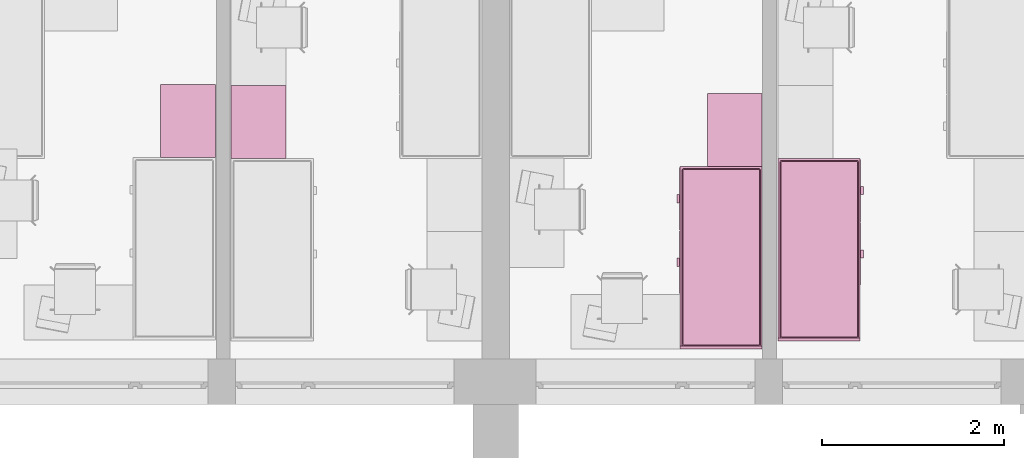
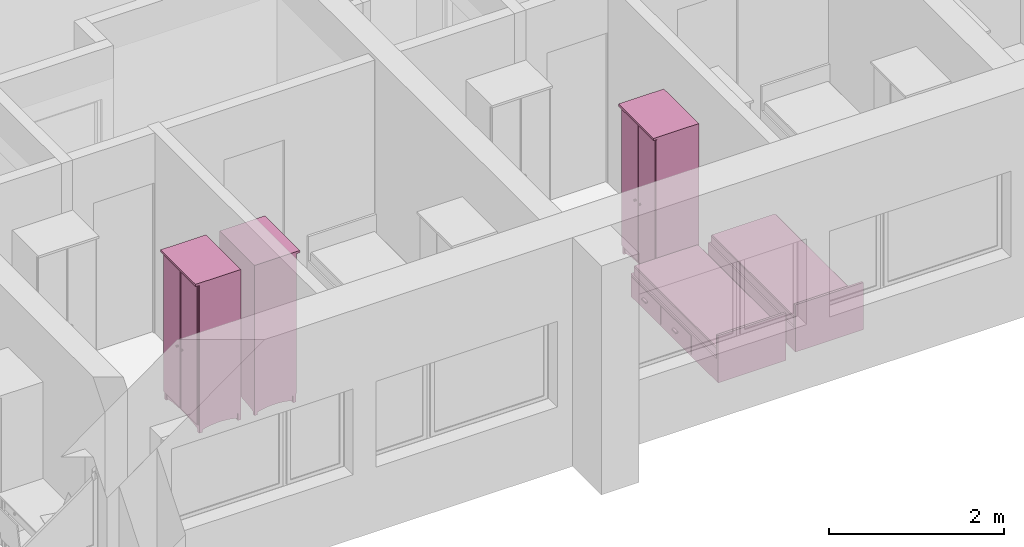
# One storey, part 123 of 165: 5 furnishings.
"""IFC2X3 building model written with IfcOpenShell, lengths in millimetres."""

from ifc_helpers import new_model, entity, si_unit, converted_unit, money_unit, direction, frame, origin_with_axes, place, context, subcontext, project, spatial, faceted_brep, source, transform, mapped, material, material_list, type_object, element, save


model = new_model("IFC2X3")

# Units and contexts
model_context = context("Model", 3, precision=1e-05, world=origin_with_axes(), true_north=direction((0.0, 1.0)))
body_context = subcontext(model_context, "Body", "Model", "MODEL_VIEW")
ifc_project = project(units=[si_unit("LENGTHUNIT", "METRE", prefix="MILLI"), si_unit("AREAUNIT", "SQUARE_METRE"), si_unit("VOLUMEUNIT", "CUBIC_METRE"), converted_unit("PLANEANGLEUNIT", "DEGREE", entity("IfcPlaneAngleMeasure", 0.0174532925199), si_unit("PLANEANGLEUNIT", "RADIAN"), dimensions=[0, 0, 0, 0, 0, 0, 0]), si_unit("SOLIDANGLEUNIT", "STERADIAN"), money_unit("USD"), converted_unit("TIMEUNIT", "Year", entity("IfcTimeMeasure", 31556926.0), si_unit("TIMEUNIT", "SECOND"), dimensions=[0, 0, 0, 0, 0, 0, 0]), si_unit("MASSUNIT", "GRAM"), si_unit("THERMODYNAMICTEMPERATUREUNIT", "DEGREE_CELSIUS"), si_unit("LUMINOUSINTENSITYUNIT", "LUMEN")], contexts=[model_context])

# Site, building, storey
site_placement = place(None, origin_with_axes())
site = spatial("IfcSite", under=ifc_project, at=site_placement, Name="Site", CompositionType="ELEMENT")
building_placement = place(site_placement, origin_with_axes())
building = spatial("IfcBuilding", under=site, at=building_placement, Name="Building", CompositionType="ELEMENT")
storey_placement = place(building_placement, frame((0.0, 0.0, 6300.0), z_axis=(0.0, 0.0, 1.0), x_axis=(1.0, 0.0, 0.0)))
storey = spatial("IfcBuildingStorey", under=building, at=storey_placement, Name="4KORRUS", CompositionType="ELEMENT", Elevation=6300.0)

# Furnishings
ifc_material = material(Name="Background")
ifc_material_list = material_list([ifc_material])
furnishing_element_type_1 = type_object("IfcFurnishingElementType", Name="Bed 19")
shared_shape_1 = source(origin_with_axes(), body_context, "Body", "Brep", [
    faceted_brep([(900.0, 1970.0, 0.0), (0.0, 1970.0, 0.0), (0.0, 2000.0, 0.0), (900.0, 2000.0, 0.0), (900.0, 1970.0, 660.0), (0.0, 1970.0, 660.0), (0.0, 2000.0, 660.0), (900.0, 2000.0, 660.0)], [[[0, 1, 2, 3]], [[1, 0, 4, 5]], [[2, 1, 5, 6]], [[3, 2, 6, 7]], [[0, 3, 7, 4]], [[5, 4, 7, 6]]]),
    faceted_brep([(900.0, 0.0, 0.0), (0.0, 0.0, 0.0), (0.0, 1970.0, 0.0), (900.0, 1970.0, 0.0), (900.0, 0.0, 320.0), (0.0, 0.0, 320.0), (0.0, 1970.0, 320.0), (900.0, 1970.0, 320.0)], [[[0, 1, 2, 3]], [[1, 0, 4, 5]], [[2, 1, 5, 6]], [[3, 2, 6, 7]], [[0, 3, 7, 4]], [[5, 4, 7, 6]]]),
    faceted_brep([(905.0, 10.0, 30.0), (900.0, 10.0, 30.0), (900.0, 695.0, 30.0), (905.0, 695.0, 30.0), (905.0, 10.0, 290.0), (900.0, 10.0, 290.0), (900.0, 695.0, 290.0), (905.0, 695.0, 290.0)], [[[0, 1, 2, 3]], [[1, 0, 4, 5]], [[2, 1, 5, 6]], [[3, 2, 6, 7]], [[0, 3, 7, 4]], [[5, 4, 7, 6]]]),
    faceted_brep([(935.0, 307.5, 150.0), (905.0, 307.5, 150.0), (905.0, 397.5, 150.0), (935.0, 397.5, 150.0), (935.0, 307.5, 170.0), (905.0, 307.5, 170.0), (905.0, 397.5, 170.0), (935.0, 397.5, 170.0)], [[[0, 1, 2, 3]], [[1, 0, 4, 5]], [[2, 1, 5, 6]], [[3, 2, 6, 7]], [[0, 3, 7, 4]], [[5, 4, 7, 6]]]),
    faceted_brep([(905.0, 705.0, 30.0), (900.0, 705.0, 30.0), (900.0, 1390.0, 30.0), (905.0, 1390.0, 30.0), (905.0, 705.0, 290.0), (900.0, 705.0, 290.0), (900.0, 1390.0, 290.0), (905.0, 1390.0, 290.0)], [[[0, 1, 2, 3]], [[1, 0, 4, 5]], [[2, 1, 5, 6]], [[3, 2, 6, 7]], [[0, 3, 7, 4]], [[5, 4, 7, 6]]]),
    faceted_brep([(935.0, 1002.5, 150.0), (905.0, 1002.5, 150.0), (905.0, 1092.5, 150.0), (935.0, 1092.5, 150.0), (935.0, 1002.5, 170.0), (905.0, 1002.5, 170.0), (905.0, 1092.5, 170.0), (935.0, 1092.5, 170.0)], [[[0, 1, 2, 3]], [[1, 0, 4, 5]], [[2, 1, 5, 6]], [[3, 2, 6, 7]], [[0, 3, 7, 4]], [[5, 4, 7, 6]]]),
    faceted_brep([(20.0, 40.0, 350.0), (20.0, 1950.0, 350.0), (21.522, 1957.654, 350.0), (25.858, 1964.142, 350.0), (32.346, 1968.478, 350.0), (40.0, 1970.0, 350.0), (860.0, 1970.0, 350.0), (867.654, 1968.478, 350.0), (874.142, 1964.142, 350.0), (878.478, 1957.654, 350.0), (880.0, 1950.0, 350.0), (880.0, 40.0, 350.0), (878.478, 32.346, 350.0), (874.142, 25.858, 350.0), (867.654, 21.522, 350.0), (860.0, 20.0, 350.0), (40.0, 20.0, 350.0), (32.346, 21.522, 350.0), (25.858, 25.858, 350.0), (21.522, 32.346, 350.0), (20.0, 40.0, 420.0), (20.0, 1950.0, 420.0), (21.522, 1957.654, 420.0), (25.858, 1964.142, 420.0), (32.346, 1968.478, 420.0), (40.0, 1970.0, 420.0), (860.0, 1970.0, 420.0), (867.654, 1968.478, 420.0), (874.142, 1964.142, 420.0), (878.478, 1957.654, 420.0), (880.0, 1950.0, 420.0), (880.0, 40.0, 420.0), (878.478, 32.346, 420.0), (874.142, 25.858, 420.0), (867.654, 21.522, 420.0), (860.0, 20.0, 420.0), (40.0, 20.0, 420.0), (32.346, 21.522, 420.0), (25.858, 25.858, 420.0), (21.522, 32.346, 420.0), (21.522, 40.15, 427.654), (21.522, 1949.85, 427.654), (22.956, 1957.06, 427.654), (26.955, 1963.045, 427.654), (32.94, 1967.044, 427.654), (40.15, 1968.478, 427.654), (859.85, 1968.478, 427.654), (867.06, 1967.044, 427.654), (873.045, 1963.045, 427.654), (877.044, 1957.06, 427.654), (878.478, 1949.85, 427.654), (878.478, 40.15, 427.654), (877.044, 32.94, 427.654), (873.045, 26.955, 427.654), (867.06, 22.956, 427.654), (859.85, 21.522, 427.654), (40.15, 21.522, 427.654), (32.94, 22.956, 427.654), (26.955, 26.955, 427.654), (22.956, 32.94, 427.654), (32.346, 41.216, 438.478), (32.346, 1948.784, 438.478), (33.152, 1952.836, 438.478), (34.759, 1955.241, 438.478), (37.164, 1956.848, 438.478), (41.216, 1957.654, 438.478), (858.784, 1957.654, 438.478), (862.836, 1956.848, 438.478), (865.241, 1955.241, 438.478), (866.848, 1952.836, 438.478), (867.654, 1948.784, 438.478), (867.654, 41.216, 438.478), (866.848, 37.164, 438.478), (865.241, 34.759, 438.478), (862.836, 33.152, 438.478), (858.784, 32.346, 438.478), (41.216, 32.346, 438.478), (37.164, 33.152, 438.478), (34.759, 34.759, 438.478), (33.152, 37.164, 438.478), (40.0, 41.97, 440.0), (40.0, 1948.03, 440.0), (40.327, 1949.673, 440.0), (40.0, 1950.0, 439.924), (41.97, 1950.0, 440.0), (858.03, 1950.0, 440.0), (859.673, 1949.673, 440.0), (860.0, 1950.0, 439.924), (860.0, 1948.03, 440.0), (860.0, 41.97, 440.0), (859.673, 40.327, 440.0), (860.0, 40.0, 439.924), (858.03, 40.0, 440.0), (41.97, 40.0, 440.0), (40.327, 40.327, 440.0), (40.0, 40.0, 439.924)], [[[0, 1, 2, 3, 4, 5, 6, 7, 8, 9, 10, 11, 12, 13, 14, 15, 16, 17, 18, 19]], [[1, 0, 20, 21]], [[2, 1, 21, 22]], [[3, 2, 22, 23]], [[4, 3, 23, 24]], [[5, 4, 24, 25]], [[6, 5, 25, 26]], [[7, 6, 26, 27]], [[8, 7, 27, 28]], [[9, 8, 28, 29]], [[10, 9, 29, 30]], [[11, 10, 30, 31]], [[12, 11, 31, 32]], [[13, 12, 32, 33]], [[14, 13, 33, 34]], [[15, 14, 34, 35]], [[16, 15, 35, 36]], [[17, 16, 36, 37]], [[18, 17, 37, 38]], [[19, 18, 38, 39]], [[0, 19, 39, 20]], [[21, 20, 40, 41]], [[22, 21, 41, 42]], [[23, 22, 42, 43]], [[24, 23, 43, 44]], [[25, 24, 44, 45]], [[26, 25, 45, 46]], [[27, 26, 46, 47]], [[28, 27, 47, 48]], [[29, 28, 48, 49]], [[30, 29, 49, 50]], [[31, 30, 50, 51]], [[32, 31, 51, 52]], [[33, 32, 52, 53]], [[34, 33, 53, 54]], [[35, 34, 54, 55]], [[36, 35, 55, 56]], [[37, 36, 56, 57]], [[38, 37, 57, 58]], [[39, 38, 58, 59]], [[20, 39, 59, 40]], [[41, 40, 60, 61]], [[42, 41, 61, 62]], [[43, 42, 62, 63]], [[44, 43, 63, 64]], [[45, 44, 64, 65]], [[46, 45, 65, 66]], [[47, 46, 66, 67]], [[48, 47, 67, 68]], [[49, 48, 68, 69]], [[50, 49, 69, 70]], [[51, 50, 70, 71]], [[52, 51, 71, 72]], [[53, 52, 72, 73]], [[54, 53, 73, 74]], [[55, 54, 74, 75]], [[56, 55, 75, 76]], [[57, 56, 76, 77]], [[58, 57, 77, 78]], [[59, 58, 78, 79]], [[40, 59, 79, 60]], [[61, 60, 80, 81]], [[62, 61, 81, 82, 83]], [[63, 62, 83]], [[64, 63, 83]], [[65, 64, 83, 82, 84]], [[66, 65, 84, 85]], [[67, 66, 85, 86, 87]], [[68, 67, 87]], [[69, 68, 87]], [[70, 69, 87, 86, 88]], [[71, 70, 88, 89]], [[72, 71, 89, 90, 91]], [[73, 72, 91]], [[74, 73, 91]], [[75, 74, 91, 90, 92]], [[76, 75, 92, 93]], [[77, 76, 93, 94, 95]], [[78, 77, 95]], [[79, 78, 95]], [[60, 79, 95, 94, 80]], [[81, 80, 94, 93, 92, 90, 89, 88, 86, 85, 84, 82]]]),
    faceted_brep([(20.0, 40.0, 350.0), (21.522, 32.346, 350.0), (25.858, 25.858, 350.0), (32.346, 21.522, 350.0), (40.0, 20.0, 350.0), (860.0, 20.0, 350.0), (867.654, 21.522, 350.0), (874.142, 25.858, 350.0), (878.478, 32.346, 350.0), (880.0, 40.0, 350.0), (880.0, 1950.0, 350.0), (878.478, 1957.654, 350.0), (874.142, 1964.142, 350.0), (867.654, 1968.478, 350.0), (860.0, 1970.0, 350.0), (40.0, 1970.0, 350.0), (32.346, 1968.478, 350.0), (25.858, 1964.142, 350.0), (21.522, 1957.654, 350.0), (20.0, 1950.0, 350.0), (20.0, 40.0, 320.0), (21.522, 32.346, 320.0), (25.858, 25.858, 320.0), (32.346, 21.522, 320.0), (40.0, 20.0, 320.0), (860.0, 20.0, 320.0), (867.654, 21.522, 320.0), (874.142, 25.858, 320.0), (878.478, 32.346, 320.0), (880.0, 40.0, 320.0), (880.0, 1950.0, 320.0), (878.478, 1957.654, 320.0), (874.142, 1964.142, 320.0), (867.654, 1968.478, 320.0), (860.0, 1970.0, 320.0), (40.0, 1970.0, 320.0), (32.346, 1968.478, 320.0), (25.858, 1964.142, 320.0), (21.522, 1957.654, 320.0), (20.0, 1950.0, 320.0)], [[[0, 1, 2, 3, 4, 5, 6, 7, 8, 9, 10, 11, 12, 13, 14, 15, 16, 17, 18, 19]], [[0, 20, 21, 1]], [[1, 21, 22, 2]], [[2, 22, 23, 3]], [[3, 23, 24, 4]], [[4, 24, 25, 5]], [[5, 25, 26, 6]], [[6, 26, 27, 7]], [[7, 27, 28, 8]], [[8, 28, 29, 9]], [[9, 29, 30, 10]], [[10, 30, 31, 11]], [[11, 31, 32, 12]], [[12, 32, 33, 13]], [[13, 33, 34, 14]], [[14, 34, 35, 15]], [[15, 35, 36, 16]], [[16, 36, 37, 17]], [[17, 37, 38, 18]], [[18, 38, 39, 19]], [[19, 39, 20, 0]], [[20, 39, 38, 37, 36, 35, 34, 33, 32, 31, 30, 29, 28, 27, 26, 25, 24, 23, 22, 21]]]),
])
furnishing_1_placement = place(storey_placement, frame((8784.70329669, -17529.2398994, 0.0), z_axis=(0.0, 0.0, 1.0), x_axis=(-1.0, 0.0, 0.0)))
element("IfcFurnishingElement", 1, at=furnishing_1_placement, inside=storey, type_object=furnishing_element_type_1, material=ifc_material_list, Name="FU - 013", context=body_context, shape_type="MappedRepresentation", body=[
    mapped(shared_shape_1, transform((0.0, 0.0, 0.0))),
])
furnishing_element_type_2 = type_object("IfcFurnishingElementType", Name="Cupboard 19")
shared_shape_2 = source(origin_with_axes(), body_context, "Body", "Brep", [
    faceted_brep([(-780.0, 600.0, 120.0), (-780.0, 580.0, 120.0), (-780.0, 580.0, 2050.0), (-780.0, 600.0, 2050.0), (-20.0, 600.0, 120.0), (-20.0, 580.0, 120.0), (-20.0, 580.0, 2050.0), (-20.0, 600.0, 2050.0)], [[[0, 1, 2, 3]], [[0, 4, 5, 1]], [[1, 5, 6, 2]], [[3, 2, 6, 7]], [[4, 0, 3, 7]], [[5, 4, 7, 6]]]),
    faceted_brep([(0.0, 50.0, 100.0), (-20.0, 50.0, 100.0), (-20.0, 600.0, 100.0), (0.0, 600.0, 100.0), (0.0, 50.0, 2070.0), (-20.0, 50.0, 2070.0), (-20.0, 600.0, 2070.0), (0.0, 600.0, 2070.0)], [[[0, 1, 2, 3]], [[1, 0, 4, 5]], [[2, 1, 5, 6]], [[3, 2, 6, 7]], [[0, 3, 7, 4]], [[5, 4, 7, 6]]]),
    faceted_brep([(-780.0, 50.0, 100.0), (-800.0, 50.0, 100.0), (-800.0, 600.0, 100.0), (-780.0, 600.0, 100.0), (-780.0, 50.0, 2070.0), (-800.0, 50.0, 2070.0), (-800.0, 600.0, 2070.0), (-780.0, 600.0, 2070.0)], [[[0, 1, 2, 3]], [[1, 0, 4, 5]], [[2, 1, 5, 6]], [[3, 2, 6, 7]], [[0, 3, 7, 4]], [[5, 4, 7, 6]]]),
    faceted_brep([(-20.0, 50.0, 100.0), (-780.0, 50.0, 100.0), (-780.0, 600.0, 100.0), (-20.0, 600.0, 100.0), (-20.0, 50.0, 120.0), (-780.0, 50.0, 120.0), (-780.0, 600.0, 120.0), (-20.0, 600.0, 120.0)], [[[0, 1, 2, 3]], [[1, 0, 4, 5]], [[2, 1, 5, 6]], [[3, 2, 6, 7]], [[0, 3, 7, 4]], [[5, 4, 7, 6]]]),
    faceted_brep([(-20.0, 50.0, 2050.0), (-780.0, 50.0, 2050.0), (-780.0, 600.0, 2050.0), (-20.0, 600.0, 2050.0), (-20.0, 50.0, 2070.0), (-780.0, 50.0, 2070.0), (-780.0, 600.0, 2070.0), (-20.0, 600.0, 2070.0)], [[[0, 1, 2, 3]], [[1, 0, 4, 5]], [[2, 1, 5, 6]], [[3, 2, 6, 7]], [[0, 3, 7, 4]], [[5, 4, 7, 6]]]),
    faceted_brep([(0.0, 600.0, 2070.0), (0.0, 600.0, 2100.0), (0.0, 0.0, 2100.0), (0.0, 0.0, 2070.0), (-800.0, 600.0, 2070.0), (-800.0, 600.0, 2100.0), (-800.0, 0.0, 2100.0), (-800.0, 0.0, 2070.0)], [[[0, 1, 2, 3]], [[4, 5, 1, 0]], [[1, 5, 6, 2]], [[3, 2, 6, 7]], [[0, 3, 7, 4]], [[7, 6, 5, 4]]]),
    faceted_brep([(-760.0, 590.0, 25.0), (-640.962, 590.0, 45.8), (-640.962, 570.0, 45.8), (-760.0, 570.0, 25.0), (-760.0, 590.0, 100.0), (-40.0, 590.0, 100.0), (-40.0, 590.0, 25.0), (-159.038, 590.0, 45.8), (-279.23, 590.0, 58.32), (-400.0, 590.0, 62.5), (-520.77, 590.0, 58.32), (-520.77, 570.0, 58.32), (-400.0, 570.0, 62.5), (-279.23, 570.0, 58.32), (-159.038, 570.0, 45.8), (-40.0, 570.0, 25.0), (-40.0, 570.0, 100.0), (-760.0, 570.0, 100.0)], [[[0, 1, 2, 3]], [[0, 4, 5, 6, 7, 8, 9, 10, 1]], [[1, 10, 11, 2]], [[3, 2, 11, 12, 13, 14, 15, 16, 17]], [[4, 0, 3, 17]], [[5, 4, 17, 16]], [[6, 5, 16, 15]], [[7, 6, 15, 14]], [[8, 7, 14, 13]], [[9, 8, 13, 12]], [[10, 9, 12, 11]]]),
    faceted_brep([(-760.0, 80.0, 25.0), (-640.962, 80.0, 45.8), (-640.962, 60.0, 45.8), (-760.0, 60.0, 25.0), (-760.0, 80.0, 100.0), (-40.0, 80.0, 100.0), (-40.0, 80.0, 25.0), (-159.038, 80.0, 45.8), (-279.23, 80.0, 58.32), (-400.0, 80.0, 62.5), (-520.77, 80.0, 58.32), (-520.77, 60.0, 58.32), (-400.0, 60.0, 62.5), (-279.23, 60.0, 58.32), (-159.038, 60.0, 45.8), (-40.0, 60.0, 25.0), (-40.0, 60.0, 100.0), (-760.0, 60.0, 100.0)], [[[0, 1, 2, 3]], [[0, 4, 5, 6, 7, 8, 9, 10, 1]], [[1, 10, 11, 2]], [[3, 2, 11, 12, 13, 14, 15, 16, 17]], [[4, 0, 3, 17]], [[5, 4, 17, 16]], [[6, 5, 16, 15]], [[7, 6, 15, 14]], [[8, 7, 14, 13]], [[9, 8, 13, 12]], [[10, 9, 12, 11]]]),
    faceted_brep([(-790.0, 90.0, 25.0), (-790.0, 141.266, 38.072), (-770.0, 141.266, 38.072), (-770.0, 90.0, 25.0), (-790.0, 90.0, 100.0), (-790.0, 560.0, 100.0), (-790.0, 560.0, 25.0), (-790.0, 508.734, 38.072), (-790.0, 456.752, 47.92), (-790.0, 404.257, 54.508), (-790.0, 351.453, 57.808), (-790.0, 298.547, 57.808), (-790.0, 245.743, 54.508), (-790.0, 193.248, 47.92), (-770.0, 193.248, 47.92), (-770.0, 245.743, 54.508), (-770.0, 298.547, 57.808), (-770.0, 351.453, 57.808), (-770.0, 404.257, 54.508), (-770.0, 456.752, 47.92), (-770.0, 508.734, 38.072), (-770.0, 560.0, 25.0), (-770.0, 560.0, 100.0), (-770.0, 90.0, 100.0)], [[[0, 1, 2, 3]], [[0, 4, 5, 6, 7, 8, 9, 10, 11, 12, 13, 1]], [[1, 13, 14, 2]], [[3, 2, 14, 15, 16, 17, 18, 19, 20, 21, 22, 23]], [[4, 0, 3, 23]], [[5, 4, 23, 22]], [[6, 5, 22, 21]], [[7, 6, 21, 20]], [[8, 7, 20, 19]], [[9, 8, 19, 18]], [[10, 9, 18, 17]], [[11, 10, 17, 16]], [[12, 11, 16, 15]], [[13, 12, 15, 14]]]),
    faceted_brep([(-30.0, 90.0, 25.0), (-30.0, 141.266, 38.072), (-10.0, 141.266, 38.072), (-10.0, 90.0, 25.0), (-30.0, 90.0, 100.0), (-30.0, 560.0, 100.0), (-30.0, 560.0, 25.0), (-30.0, 508.734, 38.072), (-30.0, 456.752, 47.92), (-30.0, 404.257, 54.508), (-30.0, 351.453, 57.808), (-30.0, 298.547, 57.808), (-30.0, 245.743, 54.508), (-30.0, 193.248, 47.92), (-10.0, 193.248, 47.92), (-10.0, 245.743, 54.508), (-10.0, 298.547, 57.808), (-10.0, 351.453, 57.808), (-10.0, 404.257, 54.508), (-10.0, 456.752, 47.92), (-10.0, 508.734, 38.072), (-10.0, 560.0, 25.0), (-10.0, 560.0, 100.0), (-10.0, 90.0, 100.0)], [[[0, 1, 2, 3]], [[0, 4, 5, 6, 7, 8, 9, 10, 11, 12, 13, 1]], [[1, 13, 14, 2]], [[3, 2, 14, 15, 16, 17, 18, 19, 20, 21, 22, 23]], [[4, 0, 3, 23]], [[5, 4, 23, 22]], [[6, 5, 22, 21]], [[7, 6, 21, 20]], [[8, 7, 20, 19]], [[9, 8, 19, 18]], [[10, 9, 18, 17]], [[11, 10, 17, 16]], [[12, 11, 16, 15]], [[13, 12, 15, 14]]]),
    faceted_brep([(-760.0, 560.0, 0.0), (-760.0, 600.0, 0.0), (-760.0, 600.0, 100.0), (-760.0, 560.0, 100.0), (-800.0, 560.0, 0.0), (-800.0, 600.0, 0.0), (-800.0, 600.0, 100.0), (-800.0, 560.0, 100.0)], [[[0, 1, 2, 3]], [[0, 4, 5, 1]], [[1, 5, 6, 2]], [[3, 2, 6, 7]], [[4, 0, 3, 7]], [[5, 4, 7, 6]]]),
    faceted_brep([(0.0, 560.0, 0.0), (0.0, 600.0, 0.0), (0.0, 600.0, 100.0), (0.0, 560.0, 100.0), (-40.0, 560.0, 0.0), (-40.0, 600.0, 0.0), (-40.0, 600.0, 100.0), (-40.0, 560.0, 100.0)], [[[0, 1, 2, 3]], [[0, 4, 5, 1]], [[1, 5, 6, 2]], [[3, 2, 6, 7]], [[4, 0, 3, 7]], [[5, 4, 7, 6]]]),
    faceted_brep([(-760.0, 50.0, 0.0), (-760.0, 90.0, 0.0), (-760.0, 90.0, 100.0), (-760.0, 50.0, 100.0), (-800.0, 50.0, 0.0), (-800.0, 90.0, 0.0), (-800.0, 90.0, 100.0), (-800.0, 50.0, 100.0)], [[[0, 1, 2, 3]], [[0, 4, 5, 1]], [[1, 5, 6, 2]], [[3, 2, 6, 7]], [[4, 0, 3, 7]], [[5, 4, 7, 6]]]),
    faceted_brep([(0.0, 50.0, 0.0), (0.0, 90.0, 0.0), (0.0, 90.0, 100.0), (0.0, 50.0, 100.0), (-40.0, 50.0, 0.0), (-40.0, 90.0, 0.0), (-40.0, 90.0, 100.0), (-40.0, 50.0, 100.0)], [[[0, 1, 2, 3]], [[0, 4, 5, 1]], [[1, 5, 6, 2]], [[3, 2, 6, 7]], [[4, 0, 3, 7]], [[5, 4, 7, 6]]]),
    faceted_brep([(-780.0, 580.0, 587.5), (-780.0, 50.0, 587.5), (-780.0, 50.0, 607.5), (-780.0, 580.0, 607.5), (-20.0, 580.0, 587.5), (-20.0, 50.0, 587.5), (-20.0, 50.0, 607.5), (-20.0, 580.0, 607.5)], [[[0, 1, 2, 3]], [[0, 4, 5, 1]], [[1, 5, 6, 2]], [[3, 2, 6, 7]], [[4, 0, 3, 7]], [[5, 4, 7, 6]]]),
    faceted_brep([(-780.0, 580.0, 1075.0), (-780.0, 50.0, 1075.0), (-780.0, 50.0, 1095.0), (-780.0, 580.0, 1095.0), (-20.0, 580.0, 1075.0), (-20.0, 50.0, 1075.0), (-20.0, 50.0, 1095.0), (-20.0, 580.0, 1095.0)], [[[0, 1, 2, 3]], [[0, 4, 5, 1]], [[1, 5, 6, 2]], [[3, 2, 6, 7]], [[4, 0, 3, 7]], [[5, 4, 7, 6]]]),
    faceted_brep([(-780.0, 580.0, 1562.5), (-780.0, 50.0, 1562.5), (-780.0, 50.0, 1582.5), (-780.0, 580.0, 1582.5), (-20.0, 580.0, 1562.5), (-20.0, 50.0, 1562.5), (-20.0, 50.0, 1582.5), (-20.0, 580.0, 1582.5)], [[[0, 1, 2, 3]], [[0, 4, 5, 1]], [[1, 5, 6, 2]], [[3, 2, 6, 7]], [[4, 0, 3, 7]], [[5, 4, 7, 6]]]),
    faceted_brep([(-789.5, 50.0, 110.5), (-789.5, 50.0, 2059.5), (-400.5, 50.0, 2059.5), (-400.5, 50.0, 110.5), (-789.5, 40.0, 110.5), (-789.5, 40.0, 2059.5), (-400.5, 40.0, 2059.5), (-400.5, 40.0, 110.5), (-779.5, 30.0, 120.5), (-779.5, 30.0, 2049.5), (-410.5, 30.0, 2049.5), (-410.5, 30.0, 120.5)], [[[0, 1, 2, 3]], [[1, 0, 4, 5]], [[2, 1, 5, 6]], [[3, 2, 6, 7]], [[0, 3, 7, 4]], [[5, 4, 8, 9]], [[6, 5, 9, 10]], [[7, 6, 10, 11]], [[4, 7, 11, 8]], [[10, 9, 8, 11]]]),
    faceted_brep([(-399.5, 50.0, 110.5), (-399.5, 50.0, 2059.5), (-10.5, 50.0, 2059.5), (-10.5, 50.0, 110.5), (-399.5, 40.0, 110.5), (-399.5, 40.0, 2059.5), (-10.5, 40.0, 2059.5), (-10.5, 40.0, 110.5), (-389.5, 30.0, 120.5), (-389.5, 30.0, 2049.5), (-20.5, 30.0, 2049.5), (-20.5, 30.0, 120.5)], [[[0, 1, 2, 3]], [[1, 0, 4, 5]], [[2, 1, 5, 6]], [[3, 2, 6, 7]], [[0, 3, 7, 4]], [[5, 4, 8, 9]], [[6, 5, 9, 10]], [[7, 6, 10, 11]], [[4, 7, 11, 8]], [[10, 9, 8, 11]]]),
    faceted_brep([(-339.608, 30.0, 954.0), (-344.0, 30.0, 949.608), (-350.0, 30.0, 948.0), (-356.0, 30.0, 949.608), (-360.392, 30.0, 954.0), (-362.0, 30.0, 960.0), (-360.392, 30.0, 966.0), (-356.0, 30.0, 970.392), (-350.0, 30.0, 972.0), (-344.0, 30.0, 970.392), (-339.608, 30.0, 966.0), (-338.0, 30.0, 960.0), (-339.608, 5.0, 954.0), (-344.0, 5.0, 949.608), (-350.0, 5.0, 948.0), (-356.0, 5.0, 949.608), (-360.392, 5.0, 954.0), (-362.0, 5.0, 960.0), (-360.392, 5.0, 966.0), (-356.0, 5.0, 970.392), (-350.0, 5.0, 972.0), (-344.0, 5.0, 970.392), (-339.608, 5.0, 966.0), (-338.0, 5.0, 960.0)], [[[0, 1, 2, 3, 4, 5, 6, 7, 8, 9, 10, 11]], [[1, 0, 12, 13]], [[2, 1, 13, 14]], [[3, 2, 14, 15]], [[4, 3, 15, 16]], [[5, 4, 16, 17]], [[6, 5, 17, 18]], [[7, 6, 18, 19]], [[8, 7, 19, 20]], [[9, 8, 20, 21]], [[10, 9, 21, 22]], [[11, 10, 22, 23]], [[0, 11, 23, 12]], [[12, 23, 22, 21, 20, 19, 18, 17, 16, 15, 14, 13]]]),
    faceted_brep([(-460.392, 30.0, 954.0), (-462.0, 30.0, 960.0), (-460.392, 30.0, 966.0), (-456.0, 30.0, 970.392), (-450.0, 30.0, 972.0), (-444.0, 30.0, 970.392), (-439.608, 30.0, 966.0), (-438.0, 30.0, 960.0), (-439.608, 30.0, 954.0), (-444.0, 30.0, 949.608), (-450.0, 30.0, 948.0), (-456.0, 30.0, 949.608), (-460.392, 5.0, 954.0), (-462.0, 5.0, 960.0), (-460.392, 5.0, 966.0), (-456.0, 5.0, 970.392), (-450.0, 5.0, 972.0), (-444.0, 5.0, 970.392), (-439.608, 5.0, 966.0), (-438.0, 5.0, 960.0), (-439.608, 5.0, 954.0), (-444.0, 5.0, 949.608), (-450.0, 5.0, 948.0), (-456.0, 5.0, 949.608)], [[[0, 1, 2, 3, 4, 5, 6, 7, 8, 9, 10, 11]], [[0, 12, 13, 1]], [[1, 13, 14, 2]], [[2, 14, 15, 3]], [[3, 15, 16, 4]], [[4, 16, 17, 5]], [[5, 17, 18, 6]], [[6, 18, 19, 7]], [[7, 19, 20, 8]], [[8, 20, 21, 9]], [[9, 21, 22, 10]], [[10, 22, 23, 11]], [[11, 23, 12, 0]], [[12, 23, 22, 21, 20, 19, 18, 17, 16, 15, 14, 13]]]),
])
for number, where, z_axis, x_axis, name in (
    (2, (2184.70329669, -17429.2398994, 0.0), (0.0, 0.0, 1.0), (0.0, -1.0, 0.0), "FU - 014"),
    (3, (3559.70329669, -16639.2398994, 0.0), (0.0, 0.0, 1.0), (0.0, 1.0, 0.0), "FU - 014"),
    (4, (8184.70329669, -17529.2398994, 0.0), (0.0, 0.0, 1.0), (0.0, -1.0, 0.0), "FU - 014"),
):
    element("IfcFurnishingElement", number, at=place(storey_placement, frame(where, z_axis=z_axis, x_axis=x_axis)), inside=storey, type_object=furnishing_element_type_2, material=ifc_material_list, Name=name, context=body_context, shape_type="MappedRepresentation", body=[
        mapped(shared_shape_2, transform((0.0, 0.0, 0.0))),
    ])
shared_shape_3 = source(origin_with_axes(), body_context, "Body", "Brep", [
    faceted_brep([(-900.0, 1970.0, 0.0), (-900.0, 2000.0, 0.0), (0.0, 2000.0, 0.0), (0.0, 1970.0, 0.0), (-900.0, 1970.0, 660.0), (-900.0, 2000.0, 660.0), (0.0, 2000.0, 660.0), (0.0, 1970.0, 660.0)], [[[0, 1, 2, 3]], [[0, 4, 5, 1]], [[1, 5, 6, 2]], [[2, 6, 7, 3]], [[3, 7, 4, 0]], [[7, 6, 5, 4]]]),
    faceted_brep([(-900.0, 0.0, 0.0), (-900.0, 1970.0, 0.0), (0.0, 1970.0, 0.0), (0.0, 0.0, 0.0), (-900.0, 0.0, 320.0), (-900.0, 1970.0, 320.0), (0.0, 1970.0, 320.0), (0.0, 0.0, 320.0)], [[[0, 1, 2, 3]], [[0, 4, 5, 1]], [[1, 5, 6, 2]], [[2, 6, 7, 3]], [[3, 7, 4, 0]], [[7, 6, 5, 4]]]),
    faceted_brep([(-905.0, 10.0, 30.0), (-905.0, 695.0, 30.0), (-900.0, 695.0, 30.0), (-900.0, 10.0, 30.0), (-905.0, 10.0, 290.0), (-905.0, 695.0, 290.0), (-900.0, 695.0, 290.0), (-900.0, 10.0, 290.0)], [[[0, 1, 2, 3]], [[0, 4, 5, 1]], [[1, 5, 6, 2]], [[2, 6, 7, 3]], [[3, 7, 4, 0]], [[7, 6, 5, 4]]]),
    faceted_brep([(-935.0, 307.5, 150.0), (-935.0, 397.5, 150.0), (-905.0, 397.5, 150.0), (-905.0, 307.5, 150.0), (-935.0, 307.5, 170.0), (-935.0, 397.5, 170.0), (-905.0, 397.5, 170.0), (-905.0, 307.5, 170.0)], [[[0, 1, 2, 3]], [[0, 4, 5, 1]], [[1, 5, 6, 2]], [[2, 6, 7, 3]], [[3, 7, 4, 0]], [[7, 6, 5, 4]]]),
    faceted_brep([(-905.0, 705.0, 30.0), (-905.0, 1390.0, 30.0), (-900.0, 1390.0, 30.0), (-900.0, 705.0, 30.0), (-905.0, 705.0, 290.0), (-905.0, 1390.0, 290.0), (-900.0, 1390.0, 290.0), (-900.0, 705.0, 290.0)], [[[0, 1, 2, 3]], [[0, 4, 5, 1]], [[1, 5, 6, 2]], [[2, 6, 7, 3]], [[3, 7, 4, 0]], [[7, 6, 5, 4]]]),
    faceted_brep([(-935.0, 1002.5, 150.0), (-935.0, 1092.5, 150.0), (-905.0, 1092.5, 150.0), (-905.0, 1002.5, 150.0), (-935.0, 1002.5, 170.0), (-935.0, 1092.5, 170.0), (-905.0, 1092.5, 170.0), (-905.0, 1002.5, 170.0)], [[[0, 1, 2, 3]], [[0, 4, 5, 1]], [[1, 5, 6, 2]], [[2, 6, 7, 3]], [[3, 7, 4, 0]], [[7, 6, 5, 4]]]),
    faceted_brep([(-20.0, 40.0, 350.0), (-21.522, 32.346, 350.0), (-25.858, 25.858, 350.0), (-32.346, 21.522, 350.0), (-40.0, 20.0, 350.0), (-860.0, 20.0, 350.0), (-867.654, 21.522, 350.0), (-874.142, 25.858, 350.0), (-878.478, 32.346, 350.0), (-880.0, 40.0, 350.0), (-880.0, 1950.0, 350.0), (-878.478, 1957.654, 350.0), (-874.142, 1964.142, 350.0), (-867.654, 1968.478, 350.0), (-860.0, 1970.0, 350.0), (-40.0, 1970.0, 350.0), (-32.346, 1968.478, 350.0), (-25.858, 1964.142, 350.0), (-21.522, 1957.654, 350.0), (-20.0, 1950.0, 350.0), (-20.0, 40.0, 420.0), (-21.522, 32.346, 420.0), (-25.858, 25.858, 420.0), (-32.346, 21.522, 420.0), (-40.0, 20.0, 420.0), (-860.0, 20.0, 420.0), (-867.654, 21.522, 420.0), (-874.142, 25.858, 420.0), (-878.478, 32.346, 420.0), (-880.0, 40.0, 420.0), (-880.0, 1950.0, 420.0), (-878.478, 1957.654, 420.0), (-874.142, 1964.142, 420.0), (-867.654, 1968.478, 420.0), (-860.0, 1970.0, 420.0), (-40.0, 1970.0, 420.0), (-32.346, 1968.478, 420.0), (-25.858, 1964.142, 420.0), (-21.522, 1957.654, 420.0), (-20.0, 1950.0, 420.0), (-21.522, 40.15, 427.654), (-22.956, 32.94, 427.654), (-26.955, 26.955, 427.654), (-32.94, 22.956, 427.654), (-40.15, 21.522, 427.654), (-859.85, 21.522, 427.654), (-867.06, 22.956, 427.654), (-873.045, 26.955, 427.654), (-877.044, 32.94, 427.654), (-878.478, 40.15, 427.654), (-878.478, 1949.85, 427.654), (-877.044, 1957.06, 427.654), (-873.045, 1963.045, 427.654), (-867.06, 1967.044, 427.654), (-859.85, 1968.478, 427.654), (-40.15, 1968.478, 427.654), (-32.94, 1967.044, 427.654), (-26.955, 1963.045, 427.654), (-22.956, 1957.06, 427.654), (-21.522, 1949.85, 427.654), (-32.346, 41.216, 438.478), (-33.152, 37.164, 438.478), (-34.759, 34.759, 438.478), (-37.164, 33.152, 438.478), (-41.216, 32.346, 438.478), (-858.784, 32.346, 438.478), (-862.836, 33.152, 438.478), (-865.241, 34.759, 438.478), (-866.848, 37.164, 438.478), (-867.654, 41.216, 438.478), (-867.654, 1948.784, 438.478), (-866.848, 1952.836, 438.478), (-865.241, 1955.241, 438.478), (-862.836, 1956.848, 438.478), (-858.784, 1957.654, 438.478), (-41.216, 1957.654, 438.478), (-37.164, 1956.848, 438.478), (-34.759, 1955.241, 438.478), (-33.152, 1952.836, 438.478), (-32.346, 1948.784, 438.478), (-40.0, 41.97, 440.0), (-40.327, 40.327, 440.0), (-40.0, 40.0, 439.924), (-41.97, 40.0, 440.0), (-858.03, 40.0, 440.0), (-859.673, 40.327, 440.0), (-860.0, 40.0, 439.924), (-860.0, 41.97, 440.0), (-860.0, 1948.03, 440.0), (-859.673, 1949.673, 440.0), (-860.0, 1950.0, 439.924), (-858.03, 1950.0, 440.0), (-41.97, 1950.0, 440.0), (-40.327, 1949.673, 440.0), (-40.0, 1950.0, 439.924), (-40.0, 1948.03, 440.0)], [[[0, 1, 2, 3, 4, 5, 6, 7, 8, 9, 10, 11, 12, 13, 14, 15, 16, 17, 18, 19]], [[0, 20, 21, 1]], [[1, 21, 22, 2]], [[2, 22, 23, 3]], [[3, 23, 24, 4]], [[4, 24, 25, 5]], [[5, 25, 26, 6]], [[6, 26, 27, 7]], [[7, 27, 28, 8]], [[8, 28, 29, 9]], [[9, 29, 30, 10]], [[10, 30, 31, 11]], [[11, 31, 32, 12]], [[12, 32, 33, 13]], [[13, 33, 34, 14]], [[14, 34, 35, 15]], [[15, 35, 36, 16]], [[16, 36, 37, 17]], [[17, 37, 38, 18]], [[18, 38, 39, 19]], [[19, 39, 20, 0]], [[20, 40, 41, 21]], [[21, 41, 42, 22]], [[22, 42, 43, 23]], [[23, 43, 44, 24]], [[24, 44, 45, 25]], [[25, 45, 46, 26]], [[26, 46, 47, 27]], [[27, 47, 48, 28]], [[28, 48, 49, 29]], [[29, 49, 50, 30]], [[30, 50, 51, 31]], [[31, 51, 52, 32]], [[32, 52, 53, 33]], [[33, 53, 54, 34]], [[34, 54, 55, 35]], [[35, 55, 56, 36]], [[36, 56, 57, 37]], [[37, 57, 58, 38]], [[38, 58, 59, 39]], [[39, 59, 40, 20]], [[40, 60, 61, 41]], [[41, 61, 62, 42]], [[42, 62, 63, 43]], [[43, 63, 64, 44]], [[44, 64, 65, 45]], [[45, 65, 66, 46]], [[46, 66, 67, 47]], [[47, 67, 68, 48]], [[48, 68, 69, 49]], [[49, 69, 70, 50]], [[50, 70, 71, 51]], [[51, 71, 72, 52]], [[52, 72, 73, 53]], [[53, 73, 74, 54]], [[54, 74, 75, 55]], [[55, 75, 76, 56]], [[56, 76, 77, 57]], [[57, 77, 78, 58]], [[58, 78, 79, 59]], [[59, 79, 60, 40]], [[60, 80, 81, 82, 61]], [[61, 82, 62]], [[62, 82, 63]], [[63, 82, 81, 83, 64]], [[64, 83, 84, 65]], [[65, 84, 85, 86, 66]], [[66, 86, 67]], [[67, 86, 68]], [[68, 86, 85, 87, 69]], [[69, 87, 88, 70]], [[70, 88, 89, 90, 71]], [[71, 90, 72]], [[72, 90, 73]], [[73, 90, 89, 91, 74]], [[74, 91, 92, 75]], [[75, 92, 93, 94, 76]], [[76, 94, 77]], [[77, 94, 78]], [[78, 94, 93, 95, 79]], [[79, 95, 80, 60]], [[95, 93, 92, 91, 89, 88, 87, 85, 84, 83, 81, 80]]]),
    faceted_brep([(-20.0, 40.0, 350.0), (-20.0, 1950.0, 350.0), (-21.522, 1957.654, 350.0), (-25.858, 1964.142, 350.0), (-32.346, 1968.478, 350.0), (-40.0, 1970.0, 350.0), (-860.0, 1970.0, 350.0), (-867.654, 1968.478, 350.0), (-874.142, 1964.142, 350.0), (-878.478, 1957.654, 350.0), (-880.0, 1950.0, 350.0), (-880.0, 40.0, 350.0), (-878.478, 32.346, 350.0), (-874.142, 25.858, 350.0), (-867.654, 21.522, 350.0), (-860.0, 20.0, 350.0), (-40.0, 20.0, 350.0), (-32.346, 21.522, 350.0), (-25.858, 25.858, 350.0), (-21.522, 32.346, 350.0), (-20.0, 40.0, 320.0), (-20.0, 1950.0, 320.0), (-21.522, 1957.654, 320.0), (-25.858, 1964.142, 320.0), (-32.346, 1968.478, 320.0), (-40.0, 1970.0, 320.0), (-860.0, 1970.0, 320.0), (-867.654, 1968.478, 320.0), (-874.142, 1964.142, 320.0), (-878.478, 1957.654, 320.0), (-880.0, 1950.0, 320.0), (-880.0, 40.0, 320.0), (-878.478, 32.346, 320.0), (-874.142, 25.858, 320.0), (-867.654, 21.522, 320.0), (-860.0, 20.0, 320.0), (-40.0, 20.0, 320.0), (-32.346, 21.522, 320.0), (-25.858, 25.858, 320.0), (-21.522, 32.346, 320.0)], [[[0, 1, 2, 3, 4, 5, 6, 7, 8, 9, 10, 11, 12, 13, 14, 15, 16, 17, 18, 19]], [[1, 0, 20, 21]], [[2, 1, 21, 22]], [[3, 2, 22, 23]], [[4, 3, 23, 24]], [[5, 4, 24, 25]], [[6, 5, 25, 26]], [[7, 6, 26, 27]], [[8, 7, 27, 28]], [[9, 8, 28, 29]], [[10, 9, 29, 30]], [[11, 10, 30, 31]], [[12, 11, 31, 32]], [[13, 12, 32, 33]], [[14, 13, 33, 34]], [[15, 14, 34, 35]], [[16, 15, 35, 36]], [[17, 16, 36, 37]], [[18, 17, 37, 38]], [[19, 18, 38, 39]], [[0, 19, 39, 20]], [[20, 39, 38, 37, 36, 35, 34, 33, 32, 31, 30, 29, 28, 27, 26, 25, 24, 23, 22, 21]]]),
])
furnishing_2_placement = place(storey_placement, frame((8959.70329669, -17439.2398994, 0.0), z_axis=(0.0, 0.0, 1.0), x_axis=(-1.0, 0.0, 0.0)))
element("IfcFurnishingElement", 5, at=furnishing_2_placement, inside=storey, type_object=furnishing_element_type_1, material=ifc_material_list, Name="FU - 013", context=body_context, shape_type="MappedRepresentation", body=[
    mapped(shared_shape_3, transform((0.0, 0.0, 0.0))),
])

save(model, "model.ifc")
